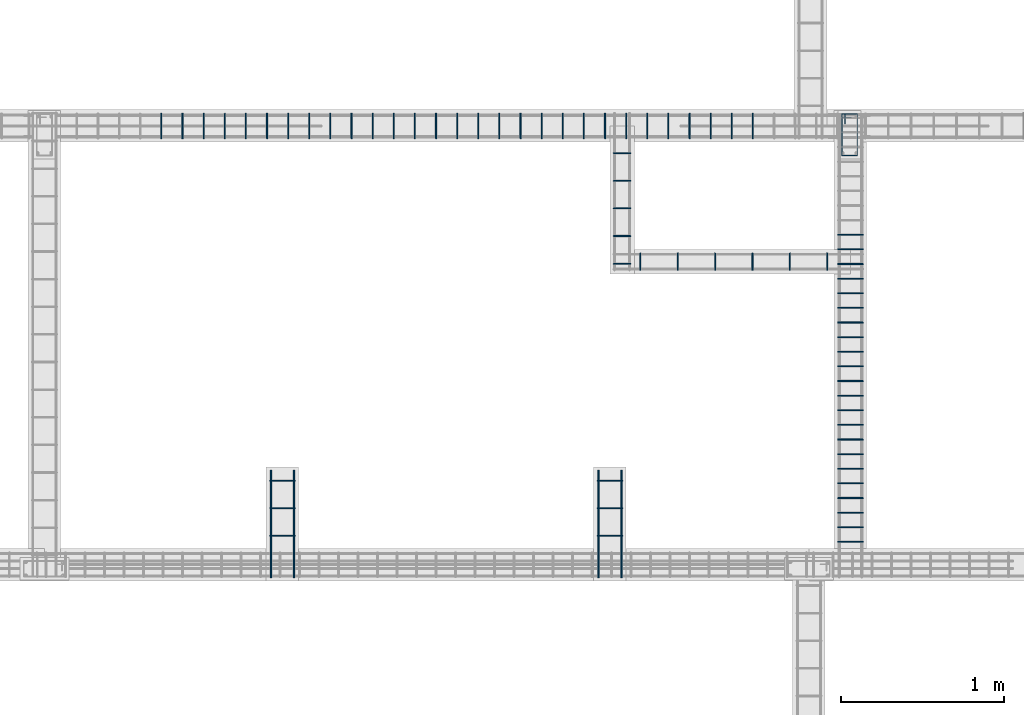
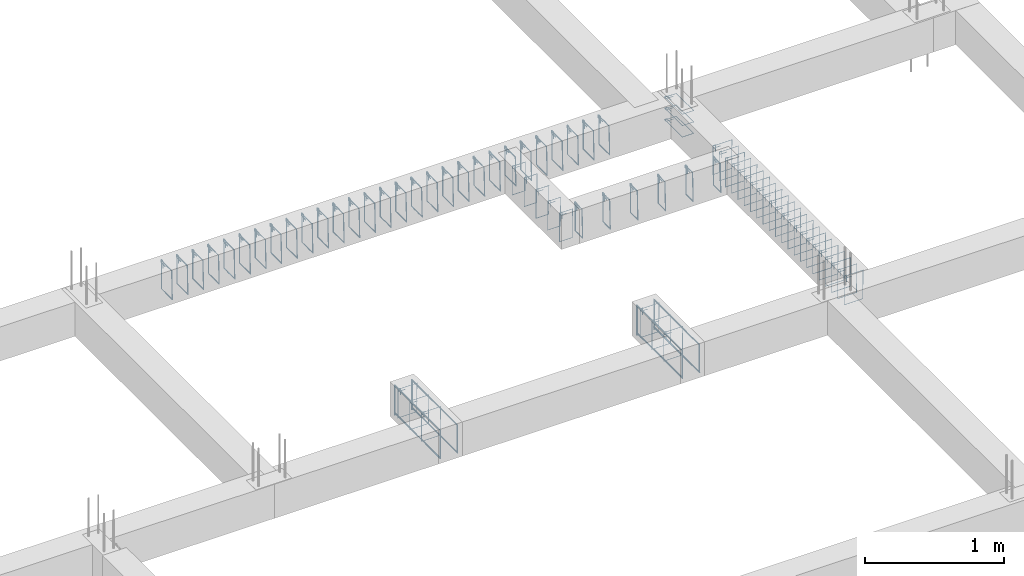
# One storey, part 132 of 150: 79 reinforcing bars.
"""IFC4 building model written with IfcOpenShell, lengths in centimetres."""

from ifc_helpers import new_model, entity, si_unit, derived_unit, frame, origin_with_axes, place, context, project, spatial, source, transform, mapped, element, save


model = new_model("IFC4")

# Units and contexts
model_context = context("Model", 3, precision=1e-05, world=origin_with_axes(), identifier="Body")
ifc_project = project(units=[si_unit("LENGTHUNIT", "METRE", prefix="CENTI"), si_unit("VOLUMEUNIT", "CUBIC_METRE"), si_unit("AREAUNIT", "SQUARE_METRE"), si_unit("POWERUNIT", "WATT"), si_unit("LUMINOUSFLUXUNIT", "LUMEN"), si_unit("ELECTRICCURRENTUNIT", "AMPERE"), si_unit("PRESSUREUNIT", "PASCAL", prefix="KILO"), si_unit("MASSUNIT", "GRAM", prefix="KILO"), si_unit("PLANEANGLEUNIT", "RADIAN"), derived_unit("VOLUMETRICFLOWRATEUNIT", [(si_unit("LENGTHUNIT", "METRE"), 3), (si_unit("TIMEUNIT", "SECOND"), -1)])], contexts=[model_context])

# Site, building, storey
site_placement = place(None, frame((-4000.0, 0.0, 0.0), z_axis=(0.0, 0.0, 1.0), x_axis=(1.0, 0.0, 0.0)))
site = spatial("IfcSite", under=ifc_project, at=site_placement, Name="PADRÃO")
building_placement = place(site_placement, frame((0.0, 0.0, -14.0)))
building = spatial("IfcBuilding", under=site, at=building_placement, Name="CRECHE PRÉ-ESCOLA TIPO 2")
placement = place(building_placement, origin_with_axes())
storey_placement = place(placement, frame((0.0, 0.0, 30.0), z_axis=(0.0, 0.0, 1.0), x_axis=(1.0, 0.0, 0.0)))
storey = spatial("IfcBuildingStorey", under=building, at=storey_placement, Name="VIGA BALDRAME", CompositionType="ELEMENT", Elevation=16.0)

# Reinforcing bars
shared_shape_1 = source(origin_with_axes(), model_context, "Body", "AdvancedSweptSolid", [
    entity("IfcSweptDiskSolid", entity("IfcCompositeCurve", [entity("IfcCompositeCurveSegment", "CONTINUOUS", True, entity("IfcPolyline", [entity("IfcCartesianPoint", [4.25, 21.75, 0.0]), entity("IfcCartesianPoint", [4.25, 27.75, 0.0])])), entity("IfcCompositeCurveSegment", "CONTINUOUS", True, entity("IfcPolyline", [entity("IfcCartesianPoint", [4.25, 27.75, 0.0]), entity("IfcCartesianPoint", [2.25, 27.75, 0.0])])), entity("IfcCompositeCurveSegment", "CONTINUOUS", True, entity("IfcPolyline", [entity("IfcCartesianPoint", [2.25, 27.75, 0.0]), entity("IfcCartesianPoint", [2.25, 2.25, 0.0])])), entity("IfcCompositeCurveSegment", "CONTINUOUS", True, entity("IfcPolyline", [entity("IfcCartesianPoint", [2.25, 2.25, 0.0]), entity("IfcCartesianPoint", [11.75, 2.25, 0.0])])), entity("IfcCompositeCurveSegment", "CONTINUOUS", True, entity("IfcPolyline", [entity("IfcCartesianPoint", [11.75, 2.25, 0.0]), entity("IfcCartesianPoint", [11.75, 27.75, -0.5])])), entity("IfcCompositeCurveSegment", "CONTINUOUS", True, entity("IfcPolyline", [entity("IfcCartesianPoint", [11.75, 27.75, -0.5]), entity("IfcCartesianPoint", [2.25, 27.75, -0.5])])), entity("IfcCompositeCurveSegment", "CONTINUOUS", True, entity("IfcPolyline", [entity("IfcCartesianPoint", [2.25, 27.75, -0.5]), entity("IfcCartesianPoint", [2.25, 25.75, -0.5])])), entity("IfcCompositeCurveSegment", "CONTINUOUS", True, entity("IfcPolyline", [entity("IfcCartesianPoint", [2.25, 25.75, -0.5]), entity("IfcCartesianPoint", [8.25, 25.75, -0.5])]))], False), 0.25),
])
for number, where, z_axis, x_axis, name in (
    (1, (3156.5, 3449.58, -5.0), (0.0, 0.0, 1.0), (1.0, 0.0, 0.0), "P44 - Estribo"),
    (2, (3156.5, 3449.58, -25.0), (0.0, 0.0, 1.0), (1.0, 0.0, 0.0), "P44 - Estribo"),
    (3, (3156.5, 3449.58, -15.0), (0.0, 0.0, 1.0), (1.0, 0.0, 0.0), "P44 - Estribo"),
):
    element("IfcReinforcingBar", number, at=place(storey_placement, frame(where, z_axis=z_axis, x_axis=x_axis)), inside=storey, Name=name, BarLength=0.0, CrossSectionArea=1.9634954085e-05, NominalDiameter=0.5, PredefinedType="MAIN", context=model_context, shape_type="MappedRepresentation", body=[
        mapped(shared_shape_1, transform((0.0, 0.0, 0.0), scale=1.0)),
    ])
shared_shape_2 = source(origin_with_axes(), model_context, "Body", "AdvancedSweptSolid", [
    entity("IfcSweptDiskSolid", entity("IfcCompositeCurve", [entity("IfcCompositeCurveSegment", "CONTINUOUS", True, entity("IfcPolyline", [entity("IfcCartesianPoint", [2.0, -6.0, 0.0]), entity("IfcCartesianPoint", [2.0, 0.0, 0.0])])), entity("IfcCompositeCurveSegment", "CONTINUOUS", True, entity("IfcPolyline", [entity("IfcCartesianPoint", [2.0, 0.0, 0.0]), entity("IfcCartesianPoint", [0.0, 0.0, 0.0])])), entity("IfcCompositeCurveSegment", "CONTINUOUS", True, entity("IfcPolyline", [entity("IfcCartesianPoint", [0.0, 0.0, 0.0]), entity("IfcCartesianPoint", [0.0, -25.5, 0.0])])), entity("IfcCompositeCurveSegment", "CONTINUOUS", True, entity("IfcPolyline", [entity("IfcCartesianPoint", [0.0, -25.5, 0.0]), entity("IfcCartesianPoint", [15.5, -25.5, 0.0])])), entity("IfcCompositeCurveSegment", "CONTINUOUS", True, entity("IfcPolyline", [entity("IfcCartesianPoint", [15.5, -25.5, 0.0]), entity("IfcCartesianPoint", [15.5, 0.0, 0.5])])), entity("IfcCompositeCurveSegment", "CONTINUOUS", True, entity("IfcPolyline", [entity("IfcCartesianPoint", [15.5, 0.0, 0.5]), entity("IfcCartesianPoint", [0.0, 0.0, 0.5])])), entity("IfcCompositeCurveSegment", "CONTINUOUS", True, entity("IfcPolyline", [entity("IfcCartesianPoint", [0.0, 0.0, 0.5]), entity("IfcCartesianPoint", [0.0, -2.0, 0.5])])), entity("IfcCompositeCurveSegment", "CONTINUOUS", True, entity("IfcPolyline", [entity("IfcCartesianPoint", [0.0, -2.0, 0.5]), entity("IfcCartesianPoint", [6.0, -2.0, 0.5])]))], False), 0.25),
])
for number, where, z_axis, x_axis, name in (
    (4, (2740.25016167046, 3477.76864485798, -2.25), (-1.0, 2.0768434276e-05, 0.0), (-2.0768434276e-05, -1.0, 0.0), "V111 - Estribo"),
    (5, (2753.25016166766, 3477.76837486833, -2.25), (-1.0, 2.0768434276e-05, 0.0), (-2.0768434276e-05, -1.0, 0.0), "V111 - Estribo"),
    (6, (2766.25016166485, 3477.76810487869, -2.25), (-1.0, 2.0768434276e-05, 0.0), (-2.0768434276e-05, -1.0, 0.0), "V111 - Estribo"),
    (7, (2779.25016166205, 3477.76783488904, -2.25), (-1.0, 2.0768434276e-05, 0.0), (-2.0768434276e-05, -1.0, 0.0), "V111 - Estribo"),
    (8, (2792.25016165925, 3477.7675648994, -2.25), (-1.0, 2.0768434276e-05, 0.0), (-2.0768434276e-05, -1.0, 0.0), "V111 - Estribo"),
    (9, (2805.25016165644, 3477.76729490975, -2.25), (-1.0, 2.0768434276e-05, 0.0), (-2.0768434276e-05, -1.0, 0.0), "V111 - Estribo"),
    (10, (2818.25016165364, 3477.76702492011, -2.25), (-1.0, 2.0768434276e-05, 0.0), (-2.0768434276e-05, -1.0, 0.0), "V111 - Estribo"),
    (11, (2831.25016165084, 3477.76675493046, -2.25), (-1.0, 2.0768434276e-05, 0.0), (-2.0768434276e-05, -1.0, 0.0), "V111 - Estribo"),
    (12, (2844.25016164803, 3477.76648494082, -2.25), (-1.0, 2.0768434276e-05, 0.0), (-2.0768434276e-05, -1.0, 0.0), "V111 - Estribo"),
    (13, (2857.25016164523, 3477.76621495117, -2.25), (-1.0, 2.0768434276e-05, 0.0), (-2.0768434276e-05, -1.0, 0.0), "V111 - Estribo"),
    (14, (2870.25016164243, 3477.76594496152, -2.25), (-1.0, 2.0768434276e-05, 0.0), (-2.0768434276e-05, -1.0, 0.0), "V111 - Estribo"),
    (15, (2883.25016163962, 3477.76567497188, -2.25), (-1.0, 2.0768434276e-05, 0.0), (-2.0768434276e-05, -1.0, 0.0), "V111 - Estribo"),
    (16, (2896.25016163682, 3477.76540498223, -2.25), (-1.0, 2.0768434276e-05, 0.0), (-2.0768434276e-05, -1.0, 0.0), "V111 - Estribo"),
    (17, (2909.25016163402, 3477.76513499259, -2.25), (-1.0, 2.0768434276e-05, 0.0), (-2.0768434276e-05, -1.0, 0.0), "V111 - Estribo"),
    (18, (2922.25016163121, 3477.76486500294, -2.25), (-1.0, 2.0768434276e-05, 0.0), (-2.0768434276e-05, -1.0, 0.0), "V111 - Estribo"),
    (19, (2935.25016162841, 3477.7645950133, -2.25), (-1.0, 2.0768434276e-05, 0.0), (-2.0768434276e-05, -1.0, 0.0), "V111 - Estribo"),
    (20, (2948.2501616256, 3477.76432502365, -2.25), (-1.0, 2.0768434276e-05, 0.0), (-2.0768434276e-05, -1.0, 0.0), "V111 - Estribo"),
    (21, (2961.2501616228, 3477.76405503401, -2.25), (-1.0, 2.0768434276e-05, 0.0), (-2.0768434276e-05, -1.0, 0.0), "V111 - Estribo"),
    (22, (2974.25016162, 3477.76378504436, -2.25), (-1.0, 2.0768434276e-05, 0.0), (-2.0768434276e-05, -1.0, 0.0), "V111 - Estribo"),
    (23, (2987.25016161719, 3477.76351505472, -2.25), (-1.0, 2.0768434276e-05, 0.0), (-2.0768434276e-05, -1.0, 0.0), "V111 - Estribo"),
    (24, (3000.25016161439, 3477.76324506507, -2.25), (-1.0, 2.0768434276e-05, 0.0), (-2.0768434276e-05, -1.0, 0.0), "V111 - Estribo"),
    (25, (3013.25016161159, 3477.76297507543, -2.25), (-1.0, 2.0768434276e-05, 0.0), (-2.0768434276e-05, -1.0, 0.0), "V111 - Estribo"),
    (26, (3026.25016160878, 3477.76270508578, -2.25), (-1.0, 2.0768434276e-05, 0.0), (-2.0768434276e-05, -1.0, 0.0), "V111 - Estribo"),
    (27, (3039.25016160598, 3477.76243509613, -2.25), (-1.0, 2.0768434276e-05, 0.0), (-2.0768434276e-05, -1.0, 0.0), "V111 - Estribo"),
    (28, (3052.25016160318, 3477.76216510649, -2.25), (-1.0, 2.0768434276e-05, 0.0), (-2.0768434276e-05, -1.0, 0.0), "V111 - Estribo"),
    (29, (3065.25016160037, 3477.76189511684, -2.25), (-1.0, 2.0768434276e-05, 0.0), (-2.0768434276e-05, -1.0, 0.0), "V111 - Estribo"),
    (30, (3078.25016159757, 3477.7616251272, -2.25), (-1.0, 2.0768434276e-05, 0.0), (-2.0768434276e-05, -1.0, 0.0), "V111 - Estribo"),
    (31, (3091.25016159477, 3477.76135513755, -2.25), (-1.0, 2.0768434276e-05, 0.0), (-2.0768434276e-05, -1.0, 0.0), "V111 - Estribo"),
    (32, (3104.25016159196, 3477.76108514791, -2.25), (-1.0, 2.0768434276e-05, 0.0), (-2.0768434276e-05, -1.0, 0.0), "V111 - Estribo"),
):
    element("IfcReinforcingBar", number, at=place(storey_placement, frame(where, z_axis=z_axis, x_axis=x_axis)), inside=storey, Name=name, BarLength=0.0, CrossSectionArea=1.9634954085e-05, NominalDiameter=0.5, PredefinedType="MAIN", context=model_context, shape_type="MappedRepresentation", body=[
        mapped(shared_shape_2, transform((0.0, 0.0, 0.0), scale=1.0)),
    ])
shared_shape_3 = source(origin_with_axes(), model_context, "Body", "AdvancedSweptSolid", [
    entity("IfcSweptDiskSolid", entity("IfcCompositeCurve", [entity("IfcCompositeCurveSegment", "CONTINUOUS", True, entity("IfcPolyline", [entity("IfcCartesianPoint", [2.0, -6.0, 0.0]), entity("IfcCartesianPoint", [2.0, 0.0, 0.0])])), entity("IfcCompositeCurveSegment", "CONTINUOUS", True, entity("IfcPolyline", [entity("IfcCartesianPoint", [2.0, 0.0, 0.0]), entity("IfcCartesianPoint", [0.0, 0.0, 0.0])])), entity("IfcCompositeCurveSegment", "CONTINUOUS", True, entity("IfcPolyline", [entity("IfcCartesianPoint", [0.0, 0.0, 0.0]), entity("IfcCartesianPoint", [0.0, -25.5, 0.0])])), entity("IfcCompositeCurveSegment", "CONTINUOUS", True, entity("IfcPolyline", [entity("IfcCartesianPoint", [0.0, -25.5, 0.0]), entity("IfcCartesianPoint", [15.5, -25.5, 0.0])])), entity("IfcCompositeCurveSegment", "CONTINUOUS", True, entity("IfcPolyline", [entity("IfcCartesianPoint", [15.5, -25.5, 0.0]), entity("IfcCartesianPoint", [15.5, 0.0, 0.5])])), entity("IfcCompositeCurveSegment", "CONTINUOUS", True, entity("IfcPolyline", [entity("IfcCartesianPoint", [15.5, 0.0, 0.5]), entity("IfcCartesianPoint", [0.0, 0.0, 0.5])])), entity("IfcCompositeCurveSegment", "CONTINUOUS", True, entity("IfcPolyline", [entity("IfcCartesianPoint", [0.0, 0.0, 0.5]), entity("IfcCartesianPoint", [0.0, -2.0, 0.5])])), entity("IfcCompositeCurveSegment", "CONTINUOUS", True, entity("IfcPolyline", [entity("IfcCartesianPoint", [0.0, -2.0, 0.5]), entity("IfcCartesianPoint", [6.0, -2.0, 0.5])]))], False), 0.25),
])
for number, where, z_axis, x_axis, name in (
    (33, (2806.74, 3235.02, -2.25), (0.0, -1.0, 0.0), (1.0, 0.0, 0.0), "V208 - Estribo"),
    (34, (2806.74, 3252.02, -2.25), (0.0, -1.0, 0.0), (1.0, 0.0, 0.0), "V208 - Estribo"),
    (35, (2806.74, 3218.02, -2.25), (0.0, -1.0, 0.0), (1.0, 0.0, 0.0), "V208 - Estribo"),
):
    element("IfcReinforcingBar", number, at=place(storey_placement, frame(where, z_axis=z_axis, x_axis=x_axis)), inside=storey, Name=name, BarLength=0.0, CrossSectionArea=1.9634954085e-05, NominalDiameter=0.5, PredefinedType="MAIN", context=model_context, shape_type="MappedRepresentation", body=[
        mapped(shared_shape_3, transform((0.0, 0.0, 0.0), scale=1.0)),
    ])
shared_shape_4 = source(origin_with_axes(), model_context, "Body", "AdvancedSweptSolid", [
    entity("IfcSweptDiskSolid", entity("IfcCompositeCurve", [entity("IfcCompositeCurveSegment", "CONTINUOUS", True, entity("IfcPolyline", [entity("IfcCartesianPoint", [2.0, -6.0, 0.0]), entity("IfcCartesianPoint", [2.0, 0.0, 0.0])])), entity("IfcCompositeCurveSegment", "CONTINUOUS", True, entity("IfcPolyline", [entity("IfcCartesianPoint", [2.0, 0.0, 0.0]), entity("IfcCartesianPoint", [0.0, 0.0, 0.0])])), entity("IfcCompositeCurveSegment", "CONTINUOUS", True, entity("IfcPolyline", [entity("IfcCartesianPoint", [0.0, 0.0, 0.0]), entity("IfcCartesianPoint", [0.0, -25.5, 0.0])])), entity("IfcCompositeCurveSegment", "CONTINUOUS", True, entity("IfcPolyline", [entity("IfcCartesianPoint", [0.0, -25.5, 0.0]), entity("IfcCartesianPoint", [15.5, -25.5, 0.0])])), entity("IfcCompositeCurveSegment", "CONTINUOUS", True, entity("IfcPolyline", [entity("IfcCartesianPoint", [15.5, -25.5, 0.0]), entity("IfcCartesianPoint", [15.5, 0.0, 0.5])])), entity("IfcCompositeCurveSegment", "CONTINUOUS", True, entity("IfcPolyline", [entity("IfcCartesianPoint", [15.5, 0.0, 0.5]), entity("IfcCartesianPoint", [0.0, 0.0, 0.5])])), entity("IfcCompositeCurveSegment", "CONTINUOUS", True, entity("IfcPolyline", [entity("IfcCartesianPoint", [0.0, 0.0, 0.5]), entity("IfcCartesianPoint", [0.0, -2.0, 0.5])])), entity("IfcCompositeCurveSegment", "CONTINUOUS", True, entity("IfcPolyline", [entity("IfcCartesianPoint", [0.0, -2.0, 0.5]), entity("IfcCartesianPoint", [6.0, -2.0, 0.5])]))], False), 0.25),
])
for number, where, z_axis, x_axis, name in (
    (36, (3008.25, 3218.02, -2.25), (0.0, -1.0, 0.0), (1.0, 0.0, 0.0), "V213 - Estribo"),
    (37, (3008.25, 3252.02, -2.25), (0.0, -1.0, 0.0), (1.0, 0.0, 0.0), "V213 - Estribo"),
    (38, (3008.25, 3235.02, -2.25), (0.0, -1.0, 0.0), (1.0, 0.0, 0.0), "V213 - Estribo"),
):
    element("IfcReinforcingBar", number, at=place(storey_placement, frame(where, z_axis=z_axis, x_axis=x_axis)), inside=storey, Name=name, BarLength=0.0, CrossSectionArea=1.9634954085e-05, NominalDiameter=0.5, PredefinedType="MAIN", context=model_context, shape_type="MappedRepresentation", body=[
        mapped(shared_shape_4, transform((0.0, 0.0, 0.0), scale=1.0)),
    ])
shared_shape_5 = source(origin_with_axes(), model_context, "Body", "AdvancedSweptSolid", [
    entity("IfcSweptDiskSolid", entity("IfcCompositeCurve", [entity("IfcCompositeCurveSegment", "CONTINUOUS", True, entity("IfcPolyline", [entity("IfcCartesianPoint", [2.0, -6.0, 0.0]), entity("IfcCartesianPoint", [2.0, 0.0, 0.0])])), entity("IfcCompositeCurveSegment", "CONTINUOUS", True, entity("IfcPolyline", [entity("IfcCartesianPoint", [2.0, 0.0, 0.0]), entity("IfcCartesianPoint", [0.0, 0.0, 0.0])])), entity("IfcCompositeCurveSegment", "CONTINUOUS", True, entity("IfcPolyline", [entity("IfcCartesianPoint", [0.0, 0.0, 0.0]), entity("IfcCartesianPoint", [0.0, -25.5, 0.0])])), entity("IfcCompositeCurveSegment", "CONTINUOUS", True, entity("IfcPolyline", [entity("IfcCartesianPoint", [0.0, -25.5, 0.0]), entity("IfcCartesianPoint", [10.5, -25.5, 0.0])])), entity("IfcCompositeCurveSegment", "CONTINUOUS", True, entity("IfcPolyline", [entity("IfcCartesianPoint", [10.5, -25.5, 0.0]), entity("IfcCartesianPoint", [10.5, 0.0, 0.5])])), entity("IfcCompositeCurveSegment", "CONTINUOUS", True, entity("IfcPolyline", [entity("IfcCartesianPoint", [10.5, 0.0, 0.5]), entity("IfcCartesianPoint", [0.0, 0.0, 0.5])])), entity("IfcCompositeCurveSegment", "CONTINUOUS", True, entity("IfcPolyline", [entity("IfcCartesianPoint", [0.0, 0.0, 0.5]), entity("IfcCartesianPoint", [0.0, -2.0, 0.5])])), entity("IfcCompositeCurveSegment", "CONTINUOUS", True, entity("IfcPolyline", [entity("IfcCartesianPoint", [0.0, -2.0, 0.5]), entity("IfcCartesianPoint", [6.0, -2.0, 0.5])]))], False), 0.25),
])
for number, where, z_axis, x_axis, name in (
    (39, (3018.25, 3419.52, -2.25), (0.0, -1.0, 0.0), (1.0, 0.0, 0.0), "V214 - Estribo"),
    (40, (3018.25, 3385.52, -2.25), (0.0, -1.0, 0.0), (1.0, 0.0, 0.0), "V214 - Estribo"),
    (41, (3018.25, 3402.52, -2.25), (0.0, -1.0, 0.0), (1.0, 0.0, 0.0), "V214 - Estribo"),
    (42, (3018.25, 3436.52, -2.25), (0.0, -1.0, 0.0), (1.0, 0.0, 0.0), "V214 - Estribo"),
    (43, (3018.25, 3453.52, -2.25), (0.0, -1.0, 0.0), (1.0, 0.0, 0.0), "V214 - Estribo"),
):
    element("IfcReinforcingBar", number, at=place(storey_placement, frame(where, z_axis=z_axis, x_axis=x_axis)), inside=storey, Name=name, BarLength=0.0, CrossSectionArea=1.9634954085e-05, NominalDiameter=0.5, PredefinedType="MAIN", context=model_context, shape_type="MappedRepresentation", body=[
        mapped(shared_shape_5, transform((0.0, 0.0, 0.0), scale=1.0)),
    ])
shared_shape_6 = source(origin_with_axes(), model_context, "Body", "AdvancedSweptSolid", [
    entity("IfcSweptDiskSolid", entity("IfcCompositeCurve", [entity("IfcCompositeCurveSegment", "CONTINUOUS", True, entity("IfcPolyline", [entity("IfcCartesianPoint", [2.0, -6.0, 0.0]), entity("IfcCartesianPoint", [2.0, 0.0, 0.0])])), entity("IfcCompositeCurveSegment", "CONTINUOUS", True, entity("IfcPolyline", [entity("IfcCartesianPoint", [2.0, 0.0, 0.0]), entity("IfcCartesianPoint", [0.0, 0.0, 0.0])])), entity("IfcCompositeCurveSegment", "CONTINUOUS", True, entity("IfcPolyline", [entity("IfcCartesianPoint", [0.0, 0.0, 0.0]), entity("IfcCartesianPoint", [0.0, -25.5, 0.0])])), entity("IfcCompositeCurveSegment", "CONTINUOUS", True, entity("IfcPolyline", [entity("IfcCartesianPoint", [0.0, -25.5, 0.0]), entity("IfcCartesianPoint", [10.5, -25.5, 0.0])])), entity("IfcCompositeCurveSegment", "CONTINUOUS", True, entity("IfcPolyline", [entity("IfcCartesianPoint", [10.5, -25.5, 0.0]), entity("IfcCartesianPoint", [10.5, 0.0, 0.5])])), entity("IfcCompositeCurveSegment", "CONTINUOUS", True, entity("IfcPolyline", [entity("IfcCartesianPoint", [10.5, 0.0, 0.5]), entity("IfcCartesianPoint", [0.0, 0.0, 0.5])])), entity("IfcCompositeCurveSegment", "CONTINUOUS", True, entity("IfcPolyline", [entity("IfcCartesianPoint", [0.0, 0.0, 0.5]), entity("IfcCartesianPoint", [0.0, -2.0, 0.5])])), entity("IfcCompositeCurveSegment", "CONTINUOUS", True, entity("IfcPolyline", [entity("IfcCartesianPoint", [0.0, -2.0, 0.5]), entity("IfcCartesianPoint", [6.0, -2.0, 0.5])]))], False), 0.25),
])
for number, where, z_axis, x_axis, name in (
    (44, (3150.0, 3391.77, -2.25), (-1.0, 0.0, 0.0), (0.0, -1.0, 0.0), "V112 - Estribo"),
    (45, (3127.0, 3391.77, -2.25), (-1.0, 0.0, 0.0), (0.0, -1.0, 0.0), "V112 - Estribo"),
    (46, (3104.0, 3391.77, -2.25), (-1.0, 0.0, 0.0), (0.0, -1.0, 0.0), "V112 - Estribo"),
    (47, (3081.0, 3391.77, -2.25), (-1.0, 0.0, 0.0), (0.0, -1.0, 0.0), "V112 - Estribo"),
    (48, (3058.0, 3391.77, -2.25), (-1.0, 0.0, 0.0), (0.0, -1.0, 0.0), "V112 - Estribo"),
    (49, (3035.0, 3391.77, -2.25), (-1.0, 0.0, 0.0), (0.0, -1.0, 0.0), "V112 - Estribo"),
):
    element("IfcReinforcingBar", number, at=place(storey_placement, frame(where, z_axis=z_axis, x_axis=x_axis)), inside=storey, Name=name, BarLength=0.0, CrossSectionArea=1.9634954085e-05, NominalDiameter=0.5, PredefinedType="MAIN", context=model_context, shape_type="MappedRepresentation", body=[
        mapped(shared_shape_6, transform((0.0, 0.0, 0.0), scale=1.0)),
    ])
shared_shape_7 = source(origin_with_axes(), model_context, "Body", "AdvancedSweptSolid", [
    entity("IfcSweptDiskSolid", entity("IfcCompositeCurve", [entity("IfcCompositeCurveSegment", "CONTINUOUS", True, entity("IfcPolyline", [entity("IfcCartesianPoint", [2.0, -6.0, 0.0]), entity("IfcCartesianPoint", [2.0, 0.0, 0.0])])), entity("IfcCompositeCurveSegment", "CONTINUOUS", True, entity("IfcPolyline", [entity("IfcCartesianPoint", [2.0, 0.0, 0.0]), entity("IfcCartesianPoint", [0.0, 0.0, 0.0])])), entity("IfcCompositeCurveSegment", "CONTINUOUS", True, entity("IfcPolyline", [entity("IfcCartesianPoint", [0.0, 0.0, 0.0]), entity("IfcCartesianPoint", [0.0, -25.5, 0.0])])), entity("IfcCompositeCurveSegment", "CONTINUOUS", True, entity("IfcPolyline", [entity("IfcCartesianPoint", [0.0, -25.5, 0.0]), entity("IfcCartesianPoint", [15.5, -25.5, 0.0])])), entity("IfcCompositeCurveSegment", "CONTINUOUS", True, entity("IfcPolyline", [entity("IfcCartesianPoint", [15.5, -25.5, 0.0]), entity("IfcCartesianPoint", [15.5, 0.0, 0.5])])), entity("IfcCompositeCurveSegment", "CONTINUOUS", True, entity("IfcPolyline", [entity("IfcCartesianPoint", [15.5, 0.0, 0.5]), entity("IfcCartesianPoint", [0.0, 0.0, 0.5])])), entity("IfcCompositeCurveSegment", "CONTINUOUS", True, entity("IfcPolyline", [entity("IfcCartesianPoint", [0.0, 0.0, 0.5]), entity("IfcCartesianPoint", [0.0, -2.0, 0.5])])), entity("IfcCompositeCurveSegment", "CONTINUOUS", True, entity("IfcPolyline", [entity("IfcCartesianPoint", [0.0, -2.0, 0.5]), entity("IfcCartesianPoint", [6.0, -2.0, 0.5])]))], False), 0.25),
])
for number, where, z_axis, x_axis, name in (
    (50, (3156.25, 3358.3, -2.25), (0.0, -1.0, 0.0), (1.0, 0.0, 0.0), "V220 - Estribo"),
    (51, (3156.25, 3349.3, -2.25), (0.0, -1.0, 0.0), (1.0, 0.0, 0.0), "V220 - Estribo"),
    (52, (3156.25, 3331.3, -2.25), (0.0, -1.0, 0.0), (1.0, 0.0, 0.0), "V220 - Estribo"),
    (53, (3156.25, 3322.3, -2.25), (0.0, -1.0, 0.0), (1.0, 0.0, 0.0), "V220 - Estribo"),
    (54, (3156.25, 3313.3, -2.25), (0.0, -1.0, 0.0), (1.0, 0.0, 0.0), "V220 - Estribo"),
    (55, (3156.25, 3304.3, -2.25), (0.0, -1.0, 0.0), (1.0, 0.0, 0.0), "V220 - Estribo"),
    (56, (3156.25, 3295.3, -2.25), (0.0, -1.0, 0.0), (1.0, 0.0, 0.0), "V220 - Estribo"),
    (57, (3156.25, 3286.3, -2.25), (0.0, -1.0, 0.0), (1.0, 0.0, 0.0), "V220 - Estribo"),
    (58, (3156.25, 3277.3, -2.25), (0.0, -1.0, 0.0), (1.0, 0.0, 0.0), "V220 - Estribo"),
    (59, (3156.25, 3268.3, -2.25), (0.0, -1.0, 0.0), (1.0, 0.0, 0.0), "V220 - Estribo"),
    (60, (3156.25, 3259.3, -2.25), (0.0, -1.0, 0.0), (1.0, 0.0, 0.0), "V220 - Estribo"),
    (61, (3156.25, 3250.3, -2.25), (0.0, -1.0, 0.0), (1.0, 0.0, 0.0), "V220 - Estribo"),
    (62, (3156.25, 3241.3, -2.25), (0.0, -1.0, 0.0), (1.0, 0.0, 0.0), "V220 - Estribo"),
    (63, (3156.25, 3232.3, -2.25), (0.0, -1.0, 0.0), (1.0, 0.0, 0.0), "V220 - Estribo"),
    (64, (3156.25, 3223.3, -2.25), (0.0, -1.0, 0.0), (1.0, 0.0, 0.0), "V220 - Estribo"),
    (65, (3156.25, 3214.3, -2.25), (0.0, -1.0, 0.0), (1.0, 0.0, 0.0), "V220 - Estribo"),
    (66, (3156.25, 3340.3, -2.25), (0.0, -1.0, 0.0), (1.0, 0.0, 0.0), "V220 - Estribo"),
    (67, (3156.25, 3403.3, -2.25), (0.0, -1.0, 0.0), (1.0, 0.0, 0.0), "V220 - Estribo"),
    (68, (3156.25, 3394.3, -2.25), (0.0, -1.0, 0.0), (1.0, 0.0, 0.0), "V220 - Estribo"),
    (69, (3156.25, 3385.3, -2.25), (0.0, -1.0, 0.0), (1.0, 0.0, 0.0), "V220 - Estribo"),
    (70, (3156.25, 3376.3, -2.25), (0.0, -1.0, 0.0), (1.0, 0.0, 0.0), "V220 - Estribo"),
    (71, (3156.25, 3367.3, -2.25), (0.0, -1.0, 0.0), (1.0, 0.0, 0.0), "V220 - Estribo"),
):
    element("IfcReinforcingBar", number, at=place(storey_placement, frame(where, z_axis=z_axis, x_axis=x_axis)), inside=storey, Name=name, BarLength=0.0, CrossSectionArea=1.9634954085e-05, NominalDiameter=0.5, PredefinedType="MAIN", context=model_context, shape_type="MappedRepresentation", body=[
        mapped(shared_shape_7, transform((0.0, 0.0, 0.0), scale=1.0)),
    ])
for number, where, z_axis, x_axis, name in (
    (72, (2821.59, 3225.02, -26.7), (0.0, 0.0, 1.0), (1.0, 0.0, 0.0), "V208 - Longitudinal inferior"),
    (73, (2807.39, 3225.02, -26.7), (0.0, 0.0, 1.0), (1.0, 0.0, 0.0), "V208 - Longitudinal inferior"),
):
    element("IfcReinforcingBar", number, at=place(storey_placement, frame(where, z_axis=z_axis, x_axis=x_axis)), inside=storey, Name=name, BarLength=0.0, CrossSectionArea=5.0265482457e-05, NominalDiameter=0.8, PredefinedType="MAIN", context=model_context, shape_type="AdvancedSweptSolid", body=[
        entity("IfcSweptDiskSolid", entity("IfcCompositeCurve", [entity("IfcCompositeCurveSegment", "CONTINUOUS", True, entity("IfcPolyline", [entity("IfcCartesianPoint", [0.0, -33.0, -0.4]), entity("IfcCartesianPoint", [0.0, 33.0, -0.4])]))], False), 0.4),
    ])
for number, where, z_axis, x_axis, name in (
    (74, (2821.59, 3225.02, -2.49624973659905), (0.0, 0.0, 1.0), (1.0, 0.0, 0.0), "V208 - Longitudinal superior"),
    (75, (2807.39, 3225.02, -2.49624973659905), (0.0, 0.0, 1.0), (1.0, 0.0, 0.0), "V208 - Longitudinal superior"),
):
    element("IfcReinforcingBar", number, at=place(storey_placement, frame(where, z_axis=z_axis, x_axis=x_axis)), inside=storey, Name=name, BarLength=0.0, CrossSectionArea=5.0265482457e-05, NominalDiameter=0.8, PredefinedType="MAIN", context=model_context, shape_type="AdvancedSweptSolid", body=[
        entity("IfcSweptDiskSolid", entity("IfcCompositeCurve", [entity("IfcCompositeCurveSegment", "CONTINUOUS", True, entity("IfcPolyline", [entity("IfcCartesianPoint", [0.0, -32.6, -24.2941566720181]), entity("IfcCartesianPoint", [0.0, -32.6, -0.403750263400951])])), entity("IfcCompositeCurveSegment", "CONTINUOUS", True, entity("IfcPolyline", [entity("IfcCartesianPoint", [0.0, -32.6, -0.403750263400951]), entity("IfcCartesianPoint", [0.0, 32.6, -0.403750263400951])])), entity("IfcCompositeCurveSegment", "CONTINUOUS", True, entity("IfcPolyline", [entity("IfcCartesianPoint", [0.0, 32.6, -0.403750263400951]), entity("IfcCartesianPoint", [0.0, 32.6, -26.403750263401])]))], False), 0.4),
    ])
for number, where, z_axis, x_axis, name in (
    (76, (3008.9, 3225.02, -26.7), (0.0, 0.0, 1.0), (1.0, 0.0, 0.0), "V213 - Longitudinal inferior"),
    (77, (3023.1, 3225.02, -26.7), (0.0, 0.0, 1.0), (1.0, 0.0, 0.0), "V213 - Longitudinal inferior"),
):
    element("IfcReinforcingBar", number, at=place(storey_placement, frame(where, z_axis=z_axis, x_axis=x_axis)), inside=storey, Name=name, BarLength=0.0, CrossSectionArea=5.0265482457e-05, NominalDiameter=0.8, PredefinedType="MAIN", context=model_context, shape_type="AdvancedSweptSolid", body=[
        entity("IfcSweptDiskSolid", entity("IfcCompositeCurve", [entity("IfcCompositeCurveSegment", "CONTINUOUS", True, entity("IfcPolyline", [entity("IfcCartesianPoint", [0.0, -33.0, -0.4]), entity("IfcCartesianPoint", [0.0, 33.0, -0.4])]))], False), 0.4),
    ])
for number, where, z_axis, x_axis, name in (
    (78, (3008.9, 3225.02, -2.49624973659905), (0.0, 0.0, 1.0), (1.0, 0.0, 0.0), "V213 - Longitudinal superior"),
    (79, (3023.1, 3225.02, -2.49624973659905), (0.0, 0.0, 1.0), (1.0, 0.0, 0.0), "V213 - Longitudinal superior"),
):
    element("IfcReinforcingBar", number, at=place(storey_placement, frame(where, z_axis=z_axis, x_axis=x_axis)), inside=storey, Name=name, BarLength=0.0, CrossSectionArea=5.0265482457e-05, NominalDiameter=0.8, PredefinedType="MAIN", context=model_context, shape_type="AdvancedSweptSolid", body=[
        entity("IfcSweptDiskSolid", entity("IfcCompositeCurve", [entity("IfcCompositeCurveSegment", "CONTINUOUS", True, entity("IfcPolyline", [entity("IfcCartesianPoint", [0.0, -32.6, -24.2941566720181]), entity("IfcCartesianPoint", [0.0, -32.6, -0.403750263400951])])), entity("IfcCompositeCurveSegment", "CONTINUOUS", True, entity("IfcPolyline", [entity("IfcCartesianPoint", [0.0, -32.6, -0.403750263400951]), entity("IfcCartesianPoint", [0.0, 32.6, -0.403750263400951])])), entity("IfcCompositeCurveSegment", "CONTINUOUS", True, entity("IfcPolyline", [entity("IfcCartesianPoint", [0.0, 32.6, -0.403750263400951]), entity("IfcCartesianPoint", [0.0, 32.6, -26.403750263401])]))], False), 0.4),
    ])

save(model, "model.ifc")
